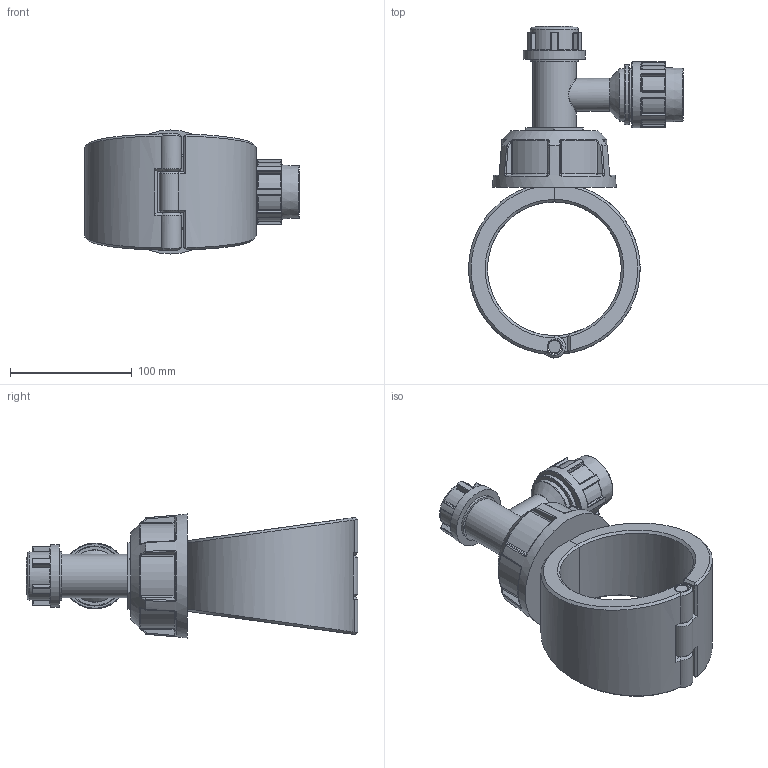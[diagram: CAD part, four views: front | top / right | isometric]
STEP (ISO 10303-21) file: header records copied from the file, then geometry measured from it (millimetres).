
FILE_DESCRIPTION(/* description */ ('Plassadle Tapper 110x25'),/* implementation_level */ '2;1');
FILE_NAME(/* name */ 'C:\Users\comp2\Dropbox\99-16-3568-Processing\Mechanical Fittings\16310\stp\163100110025_1631061100250A.stp',/* time_stamp */ '2022-02-03T11:57:37+00:00',/* author */ ('comp2'),/* organization */ (''),/* preprocessor_version */ 'ST-DEVELOPER v17.2',/* originating_system */ 'Autodesk Inventor 2019',/* authorisation */ '');
FILE_SCHEMA (('AUTOMOTIVE_DESIGN { 1 0 10303 214 3 1 1 }'));
Length unit declared in the file: millimetre
Products named in the file (1): 163100110025_1631061100250A
Bounding box: 176.44 x 273 x 102 mm (x, y, z)
Volume: 967392.8 mm3; surface area: 139975.4 mm2
Topology: 4 solids, 4 shells, 519 faces, 1253 edges, 754 vertices
Faces by surface type: cylinder 184, plane 109, bspline 87, torus 83, sphere 40, cone 16
Full cylindrical faces by diameter (mm): 10.12 x1, 12.12 x3, 25 x1, 27 x1, 30.6 x1, 35.7 x1, 39.7 x2, 43.2 x2, 49.378 x1, 51 x1, 54 x1
Entity records: 18856 total; most frequent: CARTESIAN_POINT 7103, ORIENTED_EDGE 2508, DIRECTION 2426, EDGE_CURVE 1254, AXIS2_PLACEMENT_3D 1028, VERTEX_POINT 755, CIRCLE 563, EDGE_LOOP 537
